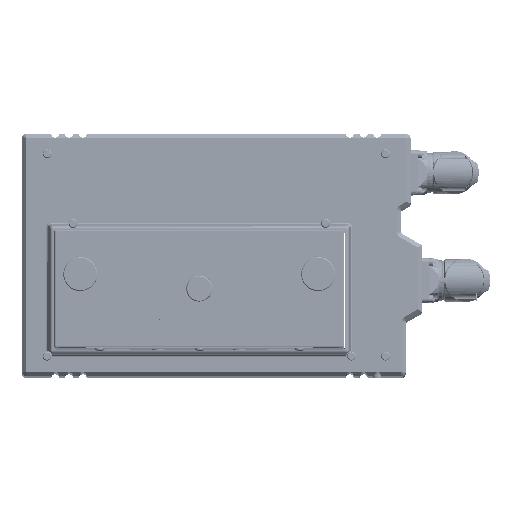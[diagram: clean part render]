
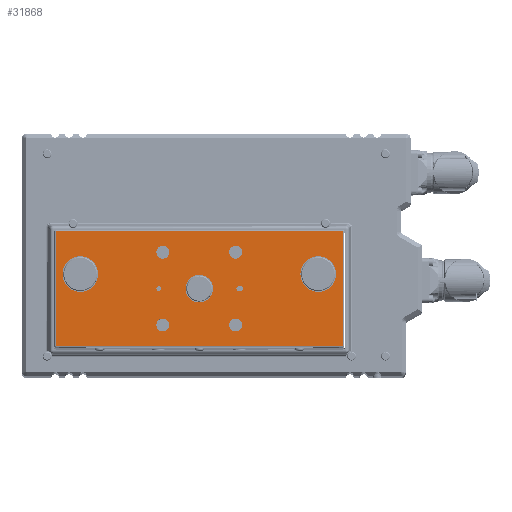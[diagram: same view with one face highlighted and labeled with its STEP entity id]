
A CAD part, top view. The second image highlights one B-rep face of the part: STEP entity #31868.
In plain terms, the highlighted planar face has unit normal (0, 0, 1).
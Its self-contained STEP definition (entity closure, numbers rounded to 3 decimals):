
#30954=CARTESIAN_POINT('',(-22.5,-22.5,19.05));
#30955=DIRECTION('',(0.,0.,-1.));
#30956=DIRECTION('',(-1.,0.,0.));
#30957=AXIS2_PLACEMENT_3D('',#30954,#30955,#30956);
#30959=CARTESIAN_POINT('',(-22.5,-22.5,19.05));
#30960=DIRECTION('',(0.,0.,-1.));
#30961=DIRECTION('',(1.,0.,0.));
#30962=AXIS2_PLACEMENT_3D('',#30959,#30960,#30961);
#30964=CARTESIAN_POINT('',(22.5,-22.5,19.05));
#30965=DIRECTION('',(0.,0.,-1.));
#30966=DIRECTION('',(-1.,0.,0.));
#30967=AXIS2_PLACEMENT_3D('',#30964,#30965,#30966);
#30969=CARTESIAN_POINT('',(22.5,-22.5,19.05));
#30970=DIRECTION('',(0.,0.,-1.));
#30971=DIRECTION('',(1.,0.,0.));
#30972=AXIS2_PLACEMENT_3D('',#30969,#30970,#30971);
#30974=CARTESIAN_POINT('',(-22.5,22.5,19.05));
#30975=DIRECTION('',(0.,0.,-1.));
#30976=DIRECTION('',(-1.,0.,0.));
#30977=AXIS2_PLACEMENT_3D('',#30974,#30975,#30976);
#30979=CARTESIAN_POINT('',(-22.5,22.5,19.05));
#30980=DIRECTION('',(0.,0.,-1.));
#30981=DIRECTION('',(1.,0.,0.));
#30982=AXIS2_PLACEMENT_3D('',#30979,#30980,#30981);
#30984=CARTESIAN_POINT('',(22.5,22.5,19.05));
#30985=DIRECTION('',(0.,0.,-1.));
#30986=DIRECTION('',(-1.,0.,0.));
#30987=AXIS2_PLACEMENT_3D('',#30984,#30985,#30986);
#30989=CARTESIAN_POINT('',(22.5,22.5,19.05));
#30990=DIRECTION('',(0.,0.,-1.));
#30991=DIRECTION('',(1.,0.,0.));
#30992=AXIS2_PLACEMENT_3D('',#30989,#30990,#30991);
#30994=CARTESIAN_POINT('',(73.5,9.001,19.05));
#30995=DIRECTION('',(0.,0.,1.));
#30996=DIRECTION('',(-1.,0.,0.));
#30997=AXIS2_PLACEMENT_3D('',#30994,#30995,#30996);
#30999=CARTESIAN_POINT('',(73.5,9.001,19.05));
#31000=DIRECTION('',(0.,0.,1.));
#31001=DIRECTION('',(1.,0.,0.));
#31002=AXIS2_PLACEMENT_3D('',#30999,#31000,#31001);
#31004=CARTESIAN_POINT('',(-73.5,9.001,19.05));
#31005=DIRECTION('',(0.,0.,1.));
#31006=DIRECTION('',(-1.,0.,0.));
#31007=AXIS2_PLACEMENT_3D('',#31004,#31005,#31006);
#31009=CARTESIAN_POINT('',(-73.5,9.001,19.05));
#31010=DIRECTION('',(0.,0.,1.));
#31011=DIRECTION('',(1.,0.,0.));
#31012=AXIS2_PLACEMENT_3D('',#31009,#31010,#31011);
#31014=DIRECTION('',(0.,1.,0.));
#31015=VECTOR('',#31014,71.);
#31016=CARTESIAN_POINT('',(88.5,-35.5,19.05));
#31017=LINE('',#31016,#31015);
#31018=DIRECTION('',(1.,0.,0.));
#31019=VECTOR('',#31018,177.);
#31020=CARTESIAN_POINT('',(-88.5,-35.5,19.05));
#31021=LINE('',#31020,#31019);
#31022=DIRECTION('',(0.,-1.,0.));
#31023=VECTOR('',#31022,71.);
#31024=CARTESIAN_POINT('',(-88.5,35.5,19.05));
#31025=LINE('',#31024,#31023);
#31026=DIRECTION('',(-1.,0.,0.));
#31027=VECTOR('',#31026,177.);
#31028=CARTESIAN_POINT('',(88.5,35.5,19.05));
#31029=LINE('',#31028,#31027);
#31030=CARTESIAN_POINT('',(0.,0.,19.05));
#31031=DIRECTION('',(0.,0.,1.));
#31032=DIRECTION('',(-1.,0.,0.));
#31033=AXIS2_PLACEMENT_3D('',#31030,#31031,#31032);
#31035=CARTESIAN_POINT('',(0.,0.,19.05));
#31036=DIRECTION('',(0.,0.,1.));
#31037=DIRECTION('',(1.,0.,0.));
#31038=AXIS2_PLACEMENT_3D('',#31035,#31036,#31037);
#31040=CARTESIAN_POINT('',(-25.,0.,19.05));
#31041=DIRECTION('',(0.,0.,-1.));
#31042=DIRECTION('',(-1.,0.,0.));
#31043=AXIS2_PLACEMENT_3D('',#31040,#31041,#31042);
#31045=CARTESIAN_POINT('',(-25.,0.,19.05));
#31046=DIRECTION('',(0.,0.,-1.));
#31047=DIRECTION('',(1.,0.,0.));
#31048=AXIS2_PLACEMENT_3D('',#31045,#31046,#31047);
#31050=CARTESIAN_POINT('',(24.5,0.,19.05));
#31051=DIRECTION('',(0.,0.,1.));
#31052=DIRECTION('',(0.,1.,0.));
#31053=AXIS2_PLACEMENT_3D('',#31050,#31051,#31052);
#31055=DIRECTION('',(1.,0.,0.));
#31056=VECTOR('',#31055,1.);
#31057=CARTESIAN_POINT('',(24.5,-1.519,19.05));
#31058=LINE('',#31057,#31056);
#31059=CARTESIAN_POINT('',(25.5,0.,19.05));
#31060=DIRECTION('',(0.,0.,1.));
#31061=DIRECTION('',(0.,-1.,0.));
#31062=AXIS2_PLACEMENT_3D('',#31059,#31060,#31061);
#31064=DIRECTION('',(-1.,0.,0.));
#31065=VECTOR('',#31064,1.);
#31066=CARTESIAN_POINT('',(25.5,1.519,19.05));
#31067=LINE('',#31066,#31065);
#31523=CARTESIAN_POINT('',(-26.5,-22.5,19.05));
#31524=CARTESIAN_POINT('',(-18.5,-22.5,19.05));
#31525=VERTEX_POINT('',#31523);
#31526=VERTEX_POINT('',#31524);
#31531=CARTESIAN_POINT('',(18.5,-22.5,19.05));
#31532=CARTESIAN_POINT('',(26.5,-22.5,19.05));
#31533=VERTEX_POINT('',#31531);
#31534=VERTEX_POINT('',#31532);
#31563=CARTESIAN_POINT('',(88.5,-35.5,19.05));
#31564=CARTESIAN_POINT('',(88.5,35.5,19.05));
#31565=VERTEX_POINT('',#31563);
#31566=VERTEX_POINT('',#31564);
#31571=CARTESIAN_POINT('',(-88.5,35.5,19.05));
#31572=VERTEX_POINT('',#31571);
#31577=CARTESIAN_POINT('',(-88.5,-35.5,19.05));
#31578=VERTEX_POINT('',#31577);
#31607=CARTESIAN_POINT('',(62.5,9.001,19.05));
#31608=CARTESIAN_POINT('',(84.5,9.001,19.05));
#31609=VERTEX_POINT('',#31607);
#31610=VERTEX_POINT('',#31608);
#31611=CARTESIAN_POINT('',(-84.5,9.001,19.05));
#31612=CARTESIAN_POINT('',(-62.5,9.001,19.05));
#31613=VERTEX_POINT('',#31611);
#31614=VERTEX_POINT('',#31612);
#31619=CARTESIAN_POINT('',(-26.5,22.5,19.05));
#31620=CARTESIAN_POINT('',(-18.5,22.5,19.05));
#31621=VERTEX_POINT('',#31619);
#31622=VERTEX_POINT('',#31620);
#31627=CARTESIAN_POINT('',(18.5,22.5,19.05));
#31628=CARTESIAN_POINT('',(26.5,22.5,19.05));
#31629=VERTEX_POINT('',#31627);
#31630=VERTEX_POINT('',#31628);
#31651=CARTESIAN_POINT('',(-8.5,0.,19.05));
#31652=CARTESIAN_POINT('',(8.5,0.,19.05));
#31653=VERTEX_POINT('',#31651);
#31654=VERTEX_POINT('',#31652);
#31667=CARTESIAN_POINT('',(-26.519,0.,19.05));
#31668=CARTESIAN_POINT('',(-23.481,0.,19.05));
#31669=VERTEX_POINT('',#31667);
#31670=VERTEX_POINT('',#31668);
#31679=CARTESIAN_POINT('',(24.5,1.519,19.05));
#31680=CARTESIAN_POINT('',(24.5,-1.519,19.05));
#31681=VERTEX_POINT('',#31679);
#31682=VERTEX_POINT('',#31680);
#31683=CARTESIAN_POINT('',(25.5,-1.519,19.05));
#31684=VERTEX_POINT('',#31683);
#31685=CARTESIAN_POINT('',(25.5,1.519,19.05));
#31686=VERTEX_POINT('',#31685);
#31796=CARTESIAN_POINT('',(0.,0.,19.05));
#31797=DIRECTION('',(0.,0.,1.));
#31798=DIRECTION('',(1.,0.,0.));
#31799=AXIS2_PLACEMENT_3D('',#31796,#31797,#31798);
#31800=PLANE('',#31799);
#31802=ORIENTED_EDGE('',*,*,#31801,.F.);
#31804=ORIENTED_EDGE('',*,*,#31803,.F.);
#31806=ORIENTED_EDGE('',*,*,#31805,.F.);
#31808=ORIENTED_EDGE('',*,*,#31807,.F.);
#31809=EDGE_LOOP('',(#31802,#31804,#31806,#31808));
#31810=FACE_OUTER_BOUND('',#31809,.F.);
#31812=ORIENTED_EDGE('',*,*,#31811,.F.);
#31814=ORIENTED_EDGE('',*,*,#31813,.F.);
#31815=EDGE_LOOP('',(#31812,#31814));
#31816=FACE_BOUND('',#31815,.F.);
#31818=ORIENTED_EDGE('',*,*,#31817,.F.);
#31820=ORIENTED_EDGE('',*,*,#31819,.F.);
#31821=EDGE_LOOP('',(#31818,#31820));
#31822=FACE_BOUND('',#31821,.F.);
#31824=ORIENTED_EDGE('',*,*,#31823,.F.);
#31826=ORIENTED_EDGE('',*,*,#31825,.F.);
#31827=EDGE_LOOP('',(#31824,#31826));
#31828=FACE_BOUND('',#31827,.F.);
#31830=ORIENTED_EDGE('',*,*,#31829,.F.);
#31832=ORIENTED_EDGE('',*,*,#31831,.F.);
#31833=EDGE_LOOP('',(#31830,#31832));
#31834=FACE_BOUND('',#31833,.F.);
#31835=ORIENTED_EDGE('',*,*,#31786,.T.);
#31837=ORIENTED_EDGE('',*,*,#31836,.T.);
#31838=EDGE_LOOP('',(#31835,#31837));
#31839=FACE_BOUND('',#31838,.F.);
#31841=ORIENTED_EDGE('',*,*,#31840,.T.);
#31843=ORIENTED_EDGE('',*,*,#31842,.T.);
#31844=EDGE_LOOP('',(#31841,#31843));
#31845=FACE_BOUND('',#31844,.F.);
#31847=ORIENTED_EDGE('',*,*,#31846,.T.);
#31849=ORIENTED_EDGE('',*,*,#31848,.T.);
#31850=EDGE_LOOP('',(#31847,#31849));
#31851=FACE_BOUND('',#31850,.F.);
#31853=ORIENTED_EDGE('',*,*,#31852,.F.);
#31855=ORIENTED_EDGE('',*,*,#31854,.F.);
#31856=EDGE_LOOP('',(#31853,#31855));
#31857=FACE_BOUND('',#31856,.F.);
#31859=ORIENTED_EDGE('',*,*,#31858,.T.);
#31861=ORIENTED_EDGE('',*,*,#31860,.T.);
#31863=ORIENTED_EDGE('',*,*,#31862,.T.);
#31865=ORIENTED_EDGE('',*,*,#31864,.T.);
#31866=EDGE_LOOP('',(#31859,#31861,#31863,#31865));
#31867=FACE_BOUND('',#31866,.F.);
#31868=ADVANCED_FACE('',(#31810,#31816,#31822,#31828,#31834,#31839,#31845,
#31851,#31857,#31867),#31800,.T.);
#30958=CIRCLE('',#30957,4.);
#30963=CIRCLE('',#30962,4.);
#30968=CIRCLE('',#30967,4.);
#30973=CIRCLE('',#30972,4.);
#30978=CIRCLE('',#30977,4.);
#30983=CIRCLE('',#30982,4.);
#30988=CIRCLE('',#30987,4.);
#30993=CIRCLE('',#30992,4.);
#30998=CIRCLE('',#30997,11.);
#31003=CIRCLE('',#31002,11.);
#31008=CIRCLE('',#31007,11.);
#31013=CIRCLE('',#31012,11.);
#31034=CIRCLE('',#31033,8.5);
#31039=CIRCLE('',#31038,8.5);
#31044=CIRCLE('',#31043,1.519);
#31049=CIRCLE('',#31048,1.519);
#31054=CIRCLE('',#31053,1.519);
#31063=CIRCLE('',#31062,1.519);
#31786=EDGE_CURVE('',#31609,#31610,#30998,.T.);
#31801=EDGE_CURVE('',#31565,#31566,#31017,.T.);
#31803=EDGE_CURVE('',#31578,#31565,#31021,.T.);
#31805=EDGE_CURVE('',#31572,#31578,#31025,.T.);
#31807=EDGE_CURVE('',#31566,#31572,#31029,.T.);
#31811=EDGE_CURVE('',#31525,#31526,#30958,.T.);
#31813=EDGE_CURVE('',#31526,#31525,#30963,.T.);
#31817=EDGE_CURVE('',#31533,#31534,#30968,.T.);
#31819=EDGE_CURVE('',#31534,#31533,#30973,.T.);
#31823=EDGE_CURVE('',#31621,#31622,#30978,.T.);
#31825=EDGE_CURVE('',#31622,#31621,#30983,.T.);
#31829=EDGE_CURVE('',#31629,#31630,#30988,.T.);
#31831=EDGE_CURVE('',#31630,#31629,#30993,.T.);
#31836=EDGE_CURVE('',#31610,#31609,#31003,.T.);
#31840=EDGE_CURVE('',#31613,#31614,#31008,.T.);
#31842=EDGE_CURVE('',#31614,#31613,#31013,.T.);
#31846=EDGE_CURVE('',#31653,#31654,#31034,.T.);
#31848=EDGE_CURVE('',#31654,#31653,#31039,.T.);
#31852=EDGE_CURVE('',#31669,#31670,#31044,.T.);
#31854=EDGE_CURVE('',#31670,#31669,#31049,.T.);
#31858=EDGE_CURVE('',#31681,#31682,#31054,.T.);
#31860=EDGE_CURVE('',#31682,#31684,#31058,.T.);
#31862=EDGE_CURVE('',#31684,#31686,#31063,.T.);
#31864=EDGE_CURVE('',#31686,#31681,#31067,.T.);
